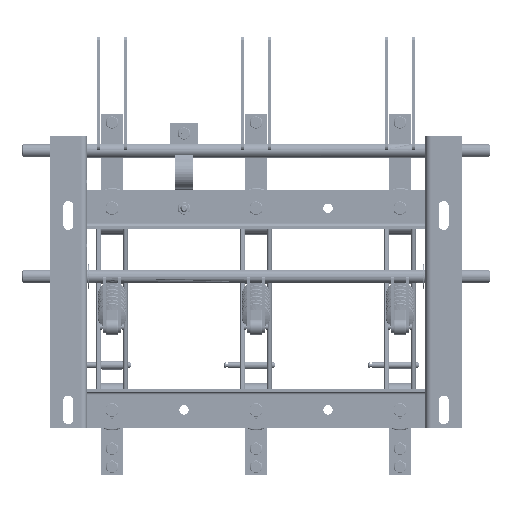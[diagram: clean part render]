
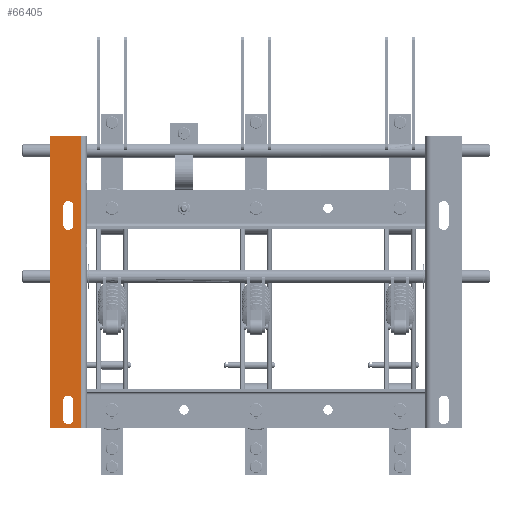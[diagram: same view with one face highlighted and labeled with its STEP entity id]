
A CAD part, front view. The second image highlights one B-rep face of the part: STEP entity #66405.
In plain terms, the highlighted planar face has unit normal (0, -1, 0).
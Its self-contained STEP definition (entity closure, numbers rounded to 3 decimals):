
#2062 = LINE ( 'NONE', #74976, #44211 ) ;
#2773 = EDGE_CURVE ( 'NONE', #29052, #14610, #63790, .T. ) ;
#4614 = EDGE_CURVE ( 'NONE', #55442, #100551, #17566, .T. ) ;
#4924 = ORIENTED_EDGE ( 'NONE', *, *, #37874, .F. ) ;
#5425 = CARTESIAN_POINT ( 'NONE',  ( -253.707, -0.004, 148.002 ) ) ;
#6933 = AXIS2_PLACEMENT_3D ( 'NONE', #53012, #19499, #78430 ) ;
#7132 = DIRECTION ( 'NONE',  ( 1., 0., 0. ) ) ;
#8052 = EDGE_CURVE ( 'NONE', #14610, #51162, #55184, .T. ) ;
#8189 = AXIS2_PLACEMENT_3D ( 'NONE', #37815, #96671, #46305 ) ;
#9471 = ORIENTED_EDGE ( 'NONE', *, *, #16238, .T. ) ;
#9481 = EDGE_CURVE ( 'NONE', #100551, #31627, #43779, .T. ) ;
#10008 = EDGE_CURVE ( 'NONE', #11901, #15391, #51587, .T. ) ;
#10356 = PLANE ( 'NONE',  #6933 ) ;
#10801 = CARTESIAN_POINT ( 'NONE',  ( -253.707, -0.004, 122.002 ) ) ;
#11089 = CIRCLE ( 'NONE', #29939, 7. ) ;
#11859 = DIRECTION ( 'NONE',  ( 0., 1., 0. ) ) ;
#11901 = VERTEX_POINT ( 'NONE', #14018 ) ;
#12951 = EDGE_CURVE ( 'NONE', #74807, #29052, #30078, .T. ) ;
#13981 = FACE_BOUND ( 'NONE', #54850, .T. ) ;
#14018 = CARTESIAN_POINT ( 'NONE',  ( -286.207, -0.004, -159.998 ) ) ;
#14609 = ORIENTED_EDGE ( 'NONE', *, *, #103754, .T. ) ;
#14610 = VERTEX_POINT ( 'NONE', #5425 ) ;
#14808 = EDGE_CURVE ( 'NONE', #31627, #32936, #2062, .T. ) ;
#14998 = CIRCLE ( 'NONE', #8189, 7. ) ;
#15391 = VERTEX_POINT ( 'NONE', #75553 ) ;
#16238 = EDGE_CURVE ( 'NONE', #32936, #55442, #11089, .T. ) ;
#17227 = ORIENTED_EDGE ( 'NONE', *, *, #2773, .T. ) ;
#17566 = LINE ( 'NONE', #70108, #104467 ) ;
#18348 = CARTESIAN_POINT ( 'NONE',  ( -267.707, -0.004, -121.998 ) ) ;
#19499 = DIRECTION ( 'NONE',  ( 0., 1., 0. ) ) ;
#20662 = ORIENTED_EDGE ( 'NONE', *, *, #46522, .T. ) ;
#22928 = DIRECTION ( 'NONE',  ( 0., 0., 1. ) ) ;
#23347 = CARTESIAN_POINT ( 'NONE',  ( -253.707, -0.004, 148.002 ) ) ;
#23459 = ORIENTED_EDGE ( 'NONE', *, *, #4614, .T. ) ;
#24477 = ORIENTED_EDGE ( 'NONE', *, *, #14808, .T. ) ;
#24742 = CARTESIAN_POINT ( 'NONE',  ( -267.707, -0.004, 122.002 ) ) ;
#26959 = AXIS2_PLACEMENT_3D ( 'NONE', #62232, #11859, #70714 ) ;
#29052 = VERTEX_POINT ( 'NONE', #62658 ) ;
#29939 = AXIS2_PLACEMENT_3D ( 'NONE', #38583, #97445, #47053 ) ;
#30078 = LINE ( 'NONE', #83123, #72221 ) ;
#31627 = VERTEX_POINT ( 'NONE', #69117 ) ;
#32936 = VERTEX_POINT ( 'NONE', #18348 ) ;
#37318 = DIRECTION ( 'NONE',  ( 0., 0., -1. ) ) ;
#37815 = CARTESIAN_POINT ( 'NONE',  ( -260.707, -0.004, 122.002 ) ) ;
#37874 = EDGE_CURVE ( 'NONE', #40852, #11901, #86041, .T. ) ;
#37983 = LINE ( 'NONE', #63820, #80148 ) ;
#38583 = CARTESIAN_POINT ( 'NONE',  ( -260.707, -0.004, -121.998 ) ) ;
#38961 = FACE_BOUND ( 'NONE', #82660, .T. ) ;
#40852 = VERTEX_POINT ( 'NONE', #54090 ) ;
#42034 = ORIENTED_EDGE ( 'NONE', *, *, #10008, .F. ) ;
#42775 = AXIS2_PLACEMENT_3D ( 'NONE', #108002, #57533, #7132 ) ;
#43779 = CIRCLE ( 'NONE', #42775, 7. ) ;
#44211 = VECTOR ( 'NONE', #100301, 1000. ) ;
#46305 = DIRECTION ( 'NONE',  ( 1., 0., 0. ) ) ;
#46522 = EDGE_CURVE ( 'NONE', #40852, #60095, #94018, .T. ) ;
#47053 = DIRECTION ( 'NONE',  ( -1., 0., 0. ) ) ;
#49255 = CARTESIAN_POINT ( 'NONE',  ( -243.004, -0.004, -159.998 ) ) ;
#51162 = VERTEX_POINT ( 'NONE', #10801 ) ;
#51587 = LINE ( 'NONE', #81820, #93691 ) ;
#51906 = VECTOR ( 'NONE', #83742, 1000. ) ;
#53012 = CARTESIAN_POINT ( 'NONE',  ( -286.207, -0.004, 47.502 ) ) ;
#54090 = CARTESIAN_POINT ( 'NONE',  ( -243.004, -0.004, -159.998 ) ) ;
#54850 = EDGE_LOOP ( 'NONE', ( #55626, #24477, #9471, #23459 ) ) ;
#55184 = LINE ( 'NONE', #23347, #57783 ) ;
#55442 = VERTEX_POINT ( 'NONE', #104117 ) ;
#55626 = ORIENTED_EDGE ( 'NONE', *, *, #9481, .T. ) ;
#56213 = ORIENTED_EDGE ( 'NONE', *, *, #74519, .F. ) ;
#57533 = DIRECTION ( 'NONE',  ( 0., 1., 0. ) ) ;
#57783 = VECTOR ( 'NONE', #82233, 1000. ) ;
#58662 = FACE_OUTER_BOUND ( 'NONE', #94141, .T. ) ;
#60095 = VERTEX_POINT ( 'NONE', #71759 ) ;
#62232 = CARTESIAN_POINT ( 'NONE',  ( -260.707, -0.004, 148.002 ) ) ;
#62658 = CARTESIAN_POINT ( 'NONE',  ( -267.707, -0.004, 148.002 ) ) ;
#63664 = VECTOR ( 'NONE', #66186, 1000. ) ;
#63790 = CIRCLE ( 'NONE', #26959, 7. ) ;
#63820 = CARTESIAN_POINT ( 'NONE',  ( -286.207, -0.004, 245.002 ) ) ;
#66186 = DIRECTION ( 'NONE',  ( -1., 0., 0. ) ) ;
#66405 = ADVANCED_FACE ( 'NONE', ( #58662, #13981, #38961 ), #10356, .F. ) ;
#69117 = CARTESIAN_POINT ( 'NONE',  ( -267.707, -0.004, -147.998 ) ) ;
#70108 = CARTESIAN_POINT ( 'NONE',  ( -253.707, -0.004, -121.998 ) ) ;
#70714 = DIRECTION ( 'NONE',  ( -1., 0., 0. ) ) ;
#71759 = CARTESIAN_POINT ( 'NONE',  ( -243.004, -0.004, 245.002 ) ) ;
#72221 = VECTOR ( 'NONE', #108506, 1000. ) ;
#72340 = DIRECTION ( 'NONE',  ( 1., 0., 0. ) ) ;
#74265 = CARTESIAN_POINT ( 'NONE',  ( -243.004, -0.004, -159.998 ) ) ;
#74519 = EDGE_CURVE ( 'NONE', #15391, #60095, #37983, .T. ) ;
#74807 = VERTEX_POINT ( 'NONE', #24742 ) ;
#74976 = CARTESIAN_POINT ( 'NONE',  ( -267.707, -0.004, -147.998 ) ) ;
#75553 = CARTESIAN_POINT ( 'NONE',  ( -286.207, -0.004, 245.002 ) ) ;
#78430 = DIRECTION ( 'NONE',  ( 1., 0., 0. ) ) ;
#80148 = VECTOR ( 'NONE', #72340, 1000. ) ;
#81820 = CARTESIAN_POINT ( 'NONE',  ( -286.207, -0.004, -159.998 ) ) ;
#82233 = DIRECTION ( 'NONE',  ( 0., 0., -1. ) ) ;
#82660 = EDGE_LOOP ( 'NONE', ( #14609, #83403, #17227, #97771 ) ) ;
#83123 = CARTESIAN_POINT ( 'NONE',  ( -267.707, -0.004, 122.002 ) ) ;
#83403 = ORIENTED_EDGE ( 'NONE', *, *, #12951, .T. ) ;
#83742 = DIRECTION ( 'NONE',  ( 0., 0., 1. ) ) ;
#86041 = LINE ( 'NONE', #49255, #63664 ) ;
#93691 = VECTOR ( 'NONE', #22928, 1000. ) ;
#94018 = LINE ( 'NONE', #74265, #51906 ) ;
#94141 = EDGE_LOOP ( 'NONE', ( #20662, #56213, #42034, #4924 ) ) ;
#96016 = CARTESIAN_POINT ( 'NONE',  ( -253.707, -0.004, -147.998 ) ) ;
#96671 = DIRECTION ( 'NONE',  ( 0., 1., 0. ) ) ;
#97445 = DIRECTION ( 'NONE',  ( 0., 1., 0. ) ) ;
#97771 = ORIENTED_EDGE ( 'NONE', *, *, #8052, .T. ) ;
#100301 = DIRECTION ( 'NONE',  ( 0., 0., 1. ) ) ;
#100551 = VERTEX_POINT ( 'NONE', #96016 ) ;
#103754 = EDGE_CURVE ( 'NONE', #51162, #74807, #14998, .T. ) ;
#104117 = CARTESIAN_POINT ( 'NONE',  ( -253.707, -0.004, -121.998 ) ) ;
#104467 = VECTOR ( 'NONE', #37318, 1000. ) ;
#108002 = CARTESIAN_POINT ( 'NONE',  ( -260.707, -0.004, -147.998 ) ) ;
#108506 = DIRECTION ( 'NONE',  ( 0., 0., 1. ) ) ;
